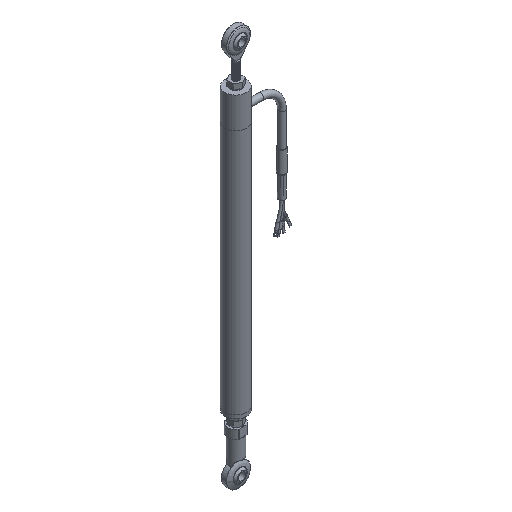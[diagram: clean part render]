
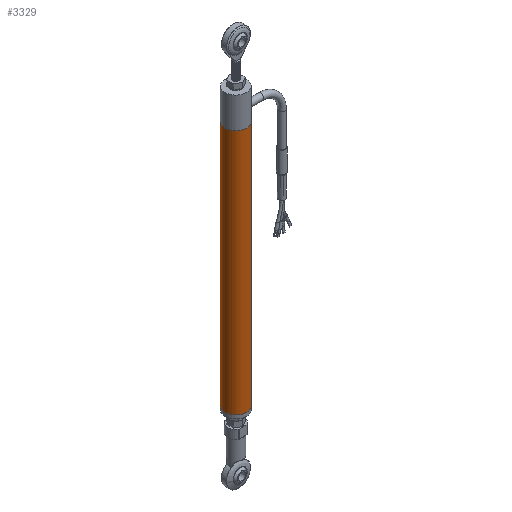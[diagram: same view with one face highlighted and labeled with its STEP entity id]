
A CAD part, isometric view. The second image highlights one B-rep face of the part: STEP entity #3329.
In plain terms, the highlighted cylindrical face has radius 6.35 mm (diameter 12.7 mm), a full revolution.
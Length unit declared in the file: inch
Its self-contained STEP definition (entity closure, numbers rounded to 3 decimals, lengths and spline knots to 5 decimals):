
#248=LINE('',#8165,#453);
#453=VECTOR('',#4234,0.25);
#633=CYLINDRICAL_SURFACE('',#3719,0.25);
#744=FACE_OUTER_BOUND('',#956,.T.);
#956=EDGE_LOOP('',(#2470,#2471,#2472,#2473,#2474));
#1140=CIRCLE('',#3711,0.25);
#1142=CIRCLE('',#3717,0.25);
#1143=CIRCLE('',#3718,0.25);
#1463=VERTEX_POINT('',#8108);
#1468=VERTEX_POINT('',#8159);
#1469=VERTEX_POINT('',#8161);
#1826=EDGE_CURVE('',#1463,#1463,#1140,.T.);
#1833=EDGE_CURVE('',#1469,#1468,#1142,.T.);
#1834=EDGE_CURVE('',#1468,#1469,#1143,.T.);
#1835=EDGE_CURVE('',#1463,#1469,#248,.T.);
#2470=ORIENTED_EDGE('',*,*,#1826,.F.);
#2471=ORIENTED_EDGE('',*,*,#1835,.T.);
#2472=ORIENTED_EDGE('',*,*,#1833,.T.);
#2473=ORIENTED_EDGE('',*,*,#1834,.T.);
#2474=ORIENTED_EDGE('',*,*,#1835,.F.);
#3329=ADVANCED_FACE('',(#744),#633,.T.);
#3711=AXIS2_PLACEMENT_3D('',#8110,#4214,#4215);
#3717=AXIS2_PLACEMENT_3D('',#8162,#4228,#4229);
#3718=AXIS2_PLACEMENT_3D('',#8163,#4230,#4231);
#3719=AXIS2_PLACEMENT_3D('',#8164,#4232,#4233);
#4214=DIRECTION('center_axis',(0.,0.,-1.));
#4215=DIRECTION('ref_axis',(-1.,0.,0.));
#4228=DIRECTION('center_axis',(0.,0.,-1.));
#4229=DIRECTION('ref_axis',(-1.,0.,0.));
#4230=DIRECTION('center_axis',(0.,0.,-1.));
#4231=DIRECTION('ref_axis',(-1.,0.,0.));
#4232=DIRECTION('center_axis',(0.,0.,-1.));
#4233=DIRECTION('ref_axis',(-1.,0.,0.));
#4234=DIRECTION('',(0.,0.,1.));
#8108=CARTESIAN_POINT('',(0.25,0.,-6.29134));
#8110=CARTESIAN_POINT('Origin',(0.,0.,-6.29134));
#8159=CARTESIAN_POINT('',(-0.25,0.,-0.7));
#8161=CARTESIAN_POINT('',(0.25,0.,-0.7));
#8162=CARTESIAN_POINT('Origin',(0.,0.,-0.7));
#8163=CARTESIAN_POINT('Origin',(0.,0.,-0.7));
#8164=CARTESIAN_POINT('Origin',(0.,0.,0.));
#8165=CARTESIAN_POINT('',(0.25,0.,0.));
